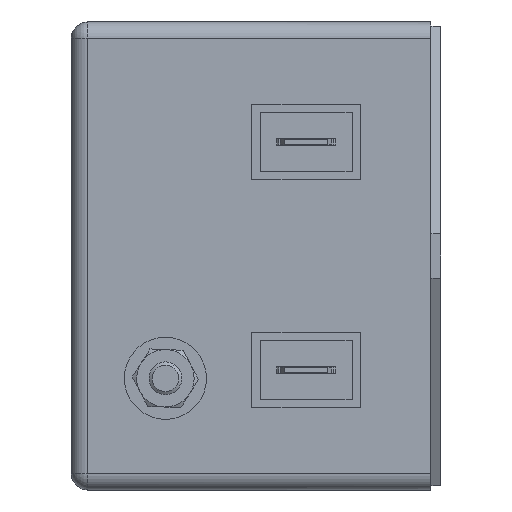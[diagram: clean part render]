
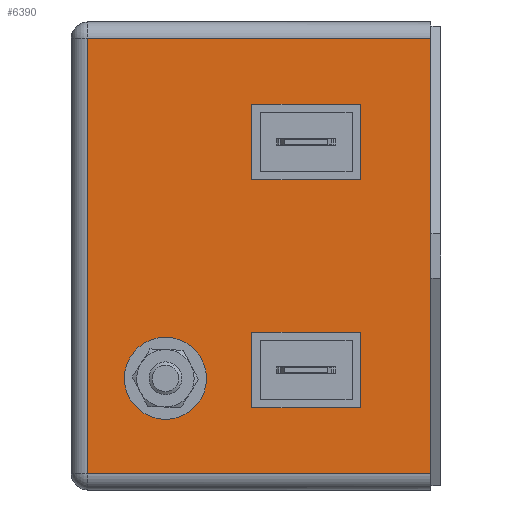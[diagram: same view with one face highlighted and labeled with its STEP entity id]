
A CAD part, left-side view. The second image highlights one B-rep face of the part: STEP entity #6390.
In plain terms, the highlighted planar face has unit normal (-1, 0, 0).
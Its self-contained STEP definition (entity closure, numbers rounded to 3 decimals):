
#143 = EDGE_CURVE ( 'NONE', #896, #1473, #4939, .T. ) ;
#527 = VECTOR ( 'NONE', #5506, 1000. ) ;
#534 = ORIENTED_EDGE ( 'NONE', *, *, #143, .T. ) ;
#537 = CARTESIAN_POINT ( 'NONE',  ( -130., 0., -55. ) ) ;
#663 = CARTESIAN_POINT ( 'NONE',  ( -130., 41.8, -55. ) ) ;
#862 = ORIENTED_EDGE ( 'NONE', *, *, #3111, .T. ) ;
#896 = VERTEX_POINT ( 'NONE', #4754 ) ;
#958 = DIRECTION ( 'NONE',  ( 0., -1., 0. ) ) ;
#983 = VECTOR ( 'NONE', #958, 1000. ) ;
#1473 = VERTEX_POINT ( 'NONE', #663 ) ;
#1594 = DIRECTION ( 'NONE',  ( 1., 0., 0. ) ) ;
#1620 = DIRECTION ( 'NONE',  ( 0., 0., -1. ) ) ;
#1752 = VERTEX_POINT ( 'NONE', #537 ) ;
#2212 = ORIENTED_EDGE ( 'NONE', *, *, #6743, .T. ) ;
#2525 = EDGE_CURVE ( 'NONE', #1752, #5350, #3298, .T. ) ;
#2672 = DIRECTION ( 'NONE',  ( 0., 0., -1. ) ) ;
#2772 = LINE ( 'NONE', #4936, #983 ) ;
#2778 = CARTESIAN_POINT ( 'NONE',  ( -130., 43.8, -57. ) ) ;
#3111 = EDGE_CURVE ( 'NONE', #1473, #1752, #2772, .T. ) ;
#3193 = CARTESIAN_POINT ( 'NONE',  ( -130., 41.8, -57. ) ) ;
#3298 = LINE ( 'NONE', #6589, #527 ) ;
#3328 = ORIENTED_EDGE ( 'NONE', *, *, #2525, .T. ) ;
#4374 = LINE ( 'NONE', #7167, #6056 ) ;
#4457 = PLANE ( 'NONE',  #5761 ) ;
#4754 = CARTESIAN_POINT ( 'NONE',  ( -130., 41.8, -2. ) ) ;
#4759 = CARTESIAN_POINT ( 'NONE',  ( -130., 0., -2. ) ) ;
#4936 = CARTESIAN_POINT ( 'NONE',  ( -130., 43.8, -55. ) ) ;
#4939 = LINE ( 'NONE', #3193, #7136 ) ;
#5350 = VERTEX_POINT ( 'NONE', #4759 ) ;
#5506 = DIRECTION ( 'NONE',  ( 0., 0., 1. ) ) ;
#5511 = DIRECTION ( 'NONE',  ( 0., 1., 0. ) ) ;
#5761 = AXIS2_PLACEMENT_3D ( 'NONE', #2778, #1594, #1620 ) ;
#5929 = FACE_OUTER_BOUND ( 'NONE', #5937, .T. ) ;
#5937 = EDGE_LOOP ( 'NONE', ( #534, #862, #3328, #2212 ) ) ;
#6056 = VECTOR ( 'NONE', #5511, 1000. ) ;
#6390 = ADVANCED_FACE ( 'NONE', ( #5929 ), #4457, .F. ) ;
#6589 = CARTESIAN_POINT ( 'NONE',  ( -130., 0., -57. ) ) ;
#6743 = EDGE_CURVE ( 'NONE', #5350, #896, #4374, .T. ) ;
#7136 = VECTOR ( 'NONE', #2672, 1000. ) ;
#7167 = CARTESIAN_POINT ( 'NONE',  ( -130., 43.8, -2. ) ) ;
